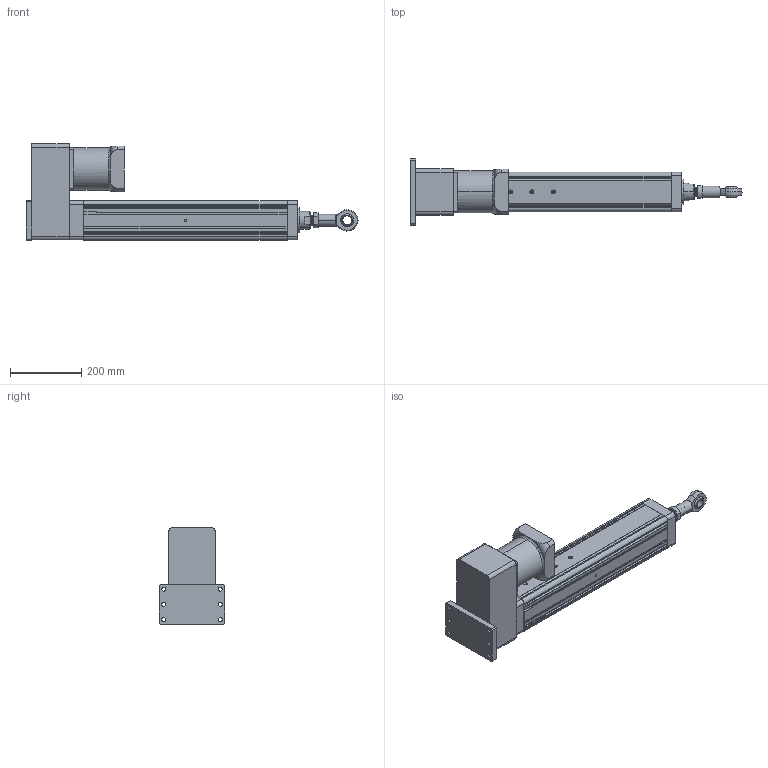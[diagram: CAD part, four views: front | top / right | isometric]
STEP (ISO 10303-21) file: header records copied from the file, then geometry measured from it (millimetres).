
FILE_DESCRIPTION (( 'STEP AP203' ), '1' );
FILE_NAME ('YRJ110-L400-H4K3.STEP', '2020-01-06T01:46:56', ( 'User' ), ( 'China' ), 'SwSTEP 2.0', 'SolidWorks 2016', '' );
FILE_SCHEMA (( 'CONFIG_CONTROL_DESIGN' ));
Length unit declared in the file: millimetre
Products named in the file (12): 萇儂碟-110; K1-110; H3-110-2; _BNC01-SI25T_K-R-001; H4-110; _BNC01-SI25T_K-R-002; 120遺1500W珨撰熬厒儂; BNC01-SI25T_K-R; K3-110; YRJ110-L400-H4K3; 095-100俴最倰第; H5-110-1
Assembly tree (11 placements, depth 4):
  YRJ110-L400-H4K3
    095-100俴最倰第
    H5-110-1
    萇儂碟-110
    H3-110-2
    H4-110
    120遺1500W珨撰熬厒儂
    K3-110
      K1-110
      BNC01-SI25T_K-R
        _BNC01-SI25T_K-R-001
        _BNC01-SI25T_K-R-002
Bounding box: 931 x 185 x 271 mm (x, y, z)
Volume: 9175077.5 mm3; surface area: 949242.8 mm2
Topology: 9 solids, 9 shells, 410 faces, 1116 edges, 713 vertices
Faces by surface type: cylinder 178, plane 173, cone 36, bspline 18, torus 5
Entity records: 23256 total; most frequent: CARTESIAN_POINT 11868, ORIENTED_EDGE 2176, DIRECTION 2052, EDGE_CURVE 1088, AXIS2_PLACEMENT_3D 721, VERTEX_POINT 713, VECTOR 610, LINE 610
